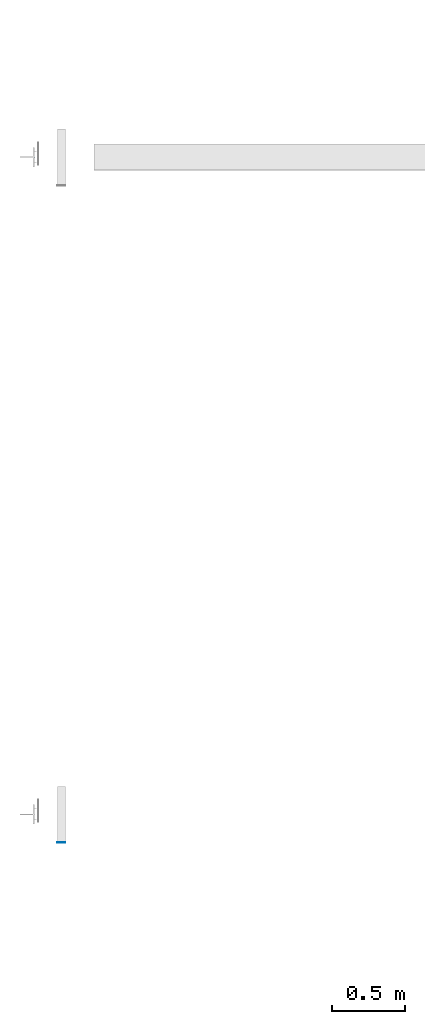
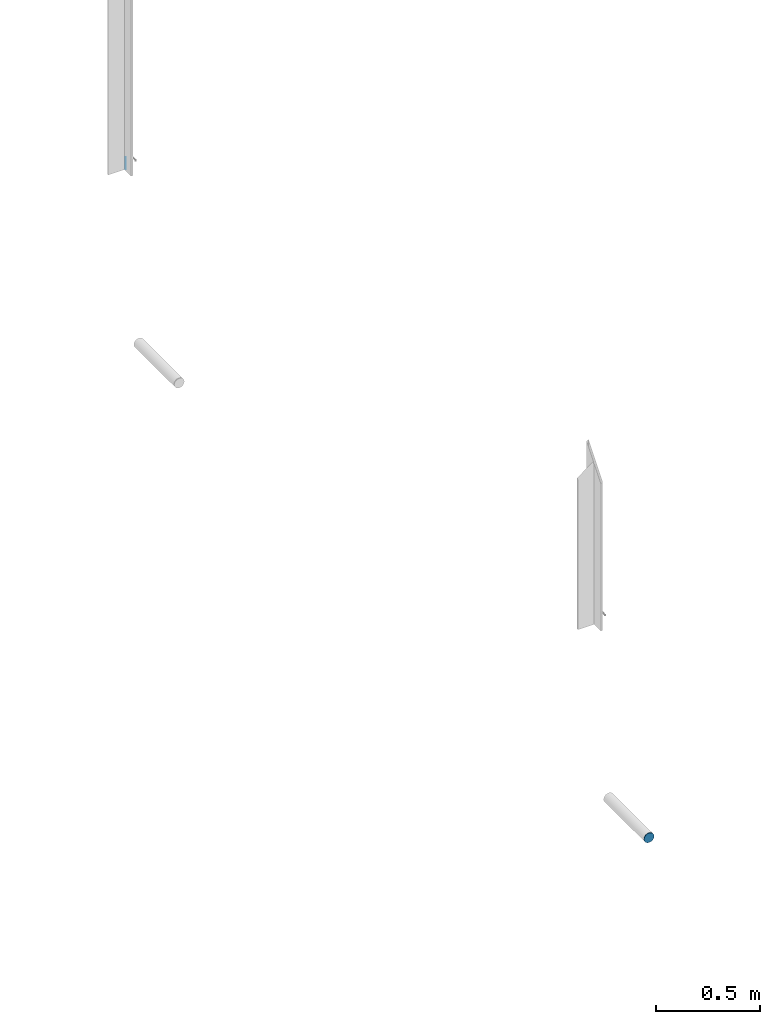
# One storey, part 76 of 186: 2 beams.
"""IFC4X3_ADD2 building model written with IfcOpenShell, lengths in millimetres."""

from ifc_helpers import new_model, si_unit, direction, frame, frame_2d, origin_with_axes, place, context, subcontext, project, spatial, indexed_curve, rectangle, outline, extrude, material, element, save


model = new_model("IFC4X3_ADD2")

# Units and contexts
model_context = context("Model", 3, precision=1e-05, world=origin_with_axes(), true_north=direction((0.0, 1.0)))
body_context = subcontext(model_context, "Body", "Model", "MODEL_VIEW")
ifc_project = project(units=[si_unit("LENGTHUNIT", "METRE", prefix="MILLI"), si_unit("AREAUNIT", "SQUARE_METRE"), si_unit("VOLUMEUNIT", "CUBIC_METRE"), si_unit("PLANEANGLEUNIT", "RADIAN"), si_unit("TIMEUNIT", "SECOND"), si_unit("MASSUNIT", "GRAM")], contexts=[model_context])

# Site, building, storey
site_placement = place(None, origin_with_axes())
site = spatial("IfcSite", under=ifc_project, at=site_placement, Name="Site", CompositionType="ELEMENT")
building_placement = place(site_placement, origin_with_axes())
building = spatial("IfcBuilding", under=site, at=building_placement, Name="IFC Building Story")
storey_placement = place(building_placement, frame((0.0, 0.0, 4370.0), z_axis=(0.0, 0.0, 1.0), x_axis=(1.0, 0.0, 0.0)))
storey = spatial("IfcBuildingStorey", under=building, at=storey_placement, Name="ETAGE 10 (1)", Elevation=4370.0)

# Beams
ifc_material_1 = material(Name="STEEL/Accessory_invisible")
beam_1_placement = place(storey_placement, frame((4778.58977737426, 13499.9997253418, 3752.0), z_axis=(-1.0, 0.0, 0.0), x_axis=(0.0, 0.0, 1.0)))
element("IfcBeam", 1, at=beam_1_placement, inside=storey, material=ifc_material_1, Name="ZW1", ObjectType="1*1 10", context=body_context, shape_type="SweptSolid", body=[
    extrude(rectangle(XDim=70.0000000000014, YDim=1.0, at=frame_2d((0.0, 5.95523630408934e-12), x_axis=(1.0, 0.0))), origin_with_axes(), (0.0, 0.0, 1.0), 1.0),
])
ifc_material_2 = material(Name="STEEL/Accessory 22919")
beam_2_placement = place(storey_placement, frame((4961.189777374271, 8807.999725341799, 2590.794000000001), z_axis=(0.0, -1.0, 0.0), x_axis=(-0.1950903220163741, 0.0, 0.9807852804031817)))
element("IfcBeam", 2, at=beam_2_placement, inside=storey, material=ifc_material_2, Name="TA4", ObjectType="D56", context=body_context, shape_type="SweptSolid", body=[
    extrude(outline(indexed_curve([(23.28114914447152, 15.55596652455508), (27.46198785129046, 5.462529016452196), (27.46198785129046, -5.462529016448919), (23.28114914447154, -15.55596652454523), (15.55596652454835, -23.28114914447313), (5.462529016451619, -27.46198785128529), (-5.462529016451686, -27.46198785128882), (-15.55596652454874, -23.28114914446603), (-23.2811491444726, -15.55596652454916), (-27.46198785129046, -5.462529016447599), (-27.46198785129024, 5.462529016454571), (-23.28114914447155, 15.55596652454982), (-15.55596652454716, 23.28114914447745), (-5.462529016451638, 27.46198785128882), (5.462529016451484, 27.46198785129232), (15.55596652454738, 23.28114914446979), (23.28114914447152, 15.55596652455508)])), origin_with_axes(), (0.0, 0.0, 1.0), 2.999999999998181),
])

save(model, "model.ifc")
